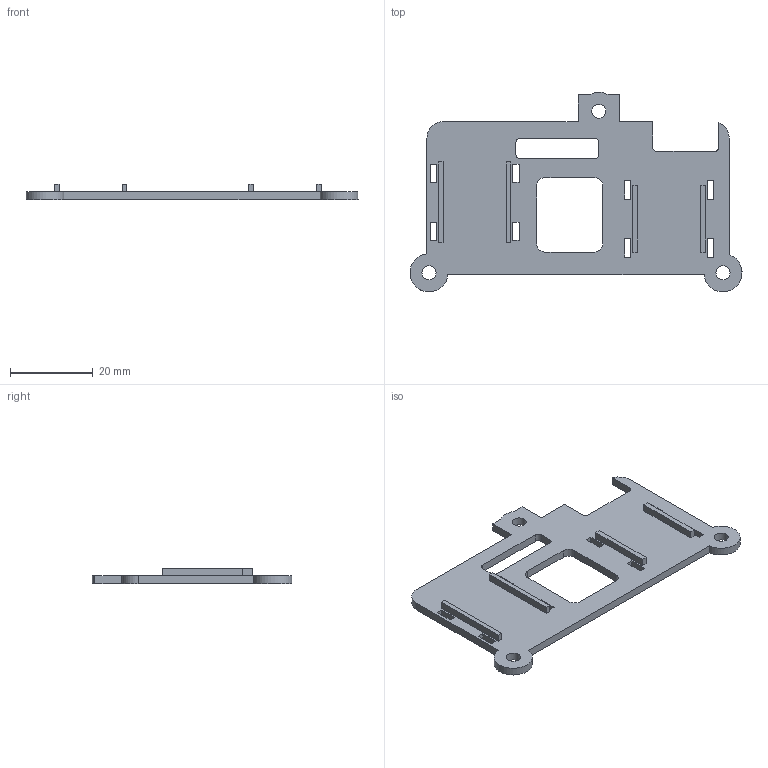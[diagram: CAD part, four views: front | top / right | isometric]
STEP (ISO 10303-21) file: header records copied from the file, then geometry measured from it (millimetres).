
FILE_DESCRIPTION(('Open CASCADE Model'),'2;1');
FILE_NAME('Open CASCADE Shape Model','2026-10-01T12:35:22',('Author'),( 'Open CASCADE'),'Open CASCADE STEP processor 7.8','Open CASCADE 7.8' ,'Unknown');
FILE_SCHEMA(('AUTOMOTIVE_DESIGN { 1 0 10303 214 1 1 1 1 }'));
Length unit declared in the file: millimetre
Products named in the file (2): P05_Electronics_deck; P05_Electronics_deck_solid
Assembly tree (1 placements, depth 2):
  P05_Electronics_deck
    P05_Electronics_deck_solid
Bounding box: 80.18 x 48.19 x 3.8 mm (x, y, z)
Volume: 4688.7 mm3; surface area: 5811.3 mm2
Topology: 1 solids, 1 shells, 92 faces, 258 edges, 172 vertices
Faces by surface type: plane 74, cylinder 18
Full cylindrical faces by diameter (mm): 3.4 x3
Entity records: 6297 total; most frequent: CARTESIAN_POINT 1178, DIRECTION 890, LINE 600, VECTOR 600, ORIENTED_EDGE 516, PCURVE 516, DEFINITIONAL_REPRESENTATION 516, EDGE_CURVE 258
